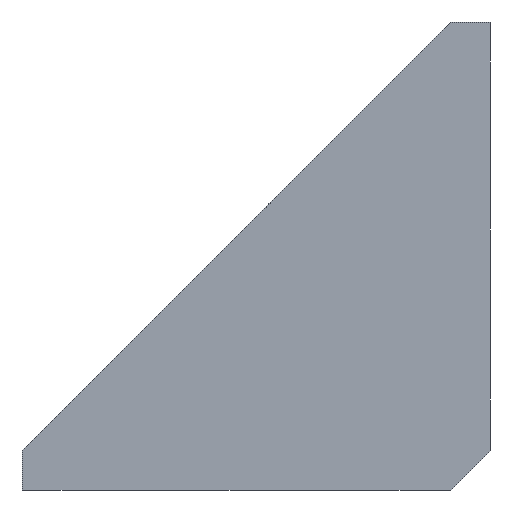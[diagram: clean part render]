
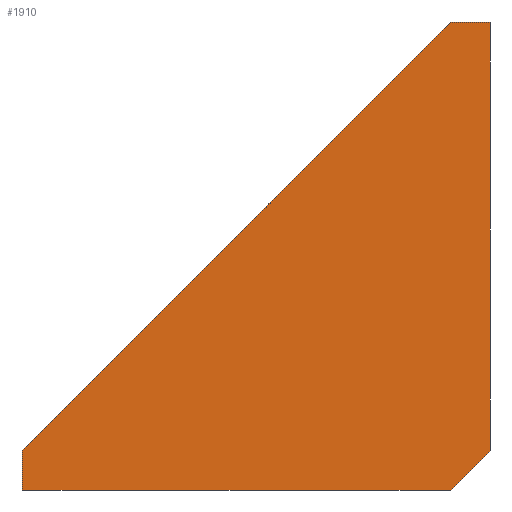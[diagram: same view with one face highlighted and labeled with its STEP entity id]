
A CAD part, left-side view. The second image highlights one B-rep face of the part: STEP entity #1910.
In plain terms, the highlighted planar face has unit normal (-1, 0, 0).
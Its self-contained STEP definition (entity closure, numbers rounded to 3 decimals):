
#72 = DIRECTION ( 'NONE',  ( 0., 0., -1. ) ) ;
#73 = DIRECTION ( 'NONE',  ( 1., 0., 0. ) ) ;
#75 = PLANE ( 'NONE',  #263 ) ;
#86 = CARTESIAN_POINT ( 'NONE',  ( -25., 0., 180. ) ) ;
#105 = CARTESIAN_POINT ( 'NONE',  ( -25., 15., 0. ) ) ;
#117 = CARTESIAN_POINT ( 'NONE',  ( -25., 0., 180. ) ) ;
#127 = CARTESIAN_POINT ( 'NONE',  ( -25., 180., 15. ) ) ;
#136 = CARTESIAN_POINT ( 'NONE',  ( -25., 0., 15. ) ) ;
#144 = CARTESIAN_POINT ( 'NONE',  ( -25., 180., 0. ) ) ;
#210 = CARTESIAN_POINT ( 'NONE',  ( -25., 15., 180. ) ) ;
#263 = AXIS2_PLACEMENT_3D ( 'NONE', #86, #73, #72 ) ;
#265 = EDGE_CURVE ( 'NONE', #1602, #1587, #1052, .T. ) ;
#341 = EDGE_CURVE ( 'NONE', #1535, #1602, #933, .T. ) ;
#355 = EDGE_CURVE ( 'NONE', #1593, #1535, #904, .T. ) ;
#363 = EDGE_CURVE ( 'NONE', #1581, #1593, #902, .T. ) ;
#372 = EDGE_CURVE ( 'NONE', #1611, #1581, #886, .T. ) ;
#377 = EDGE_CURVE ( 'NONE', #1587, #1611, #858, .T. ) ;
#490 = CARTESIAN_POINT ( 'NONE',  ( -25., 180., 15. ) ) ;
#495 = DIRECTION ( 'NONE',  ( 0., -1., 0. ) ) ;
#520 = CARTESIAN_POINT ( 'NONE',  ( -25., 15., 180. ) ) ;
#555 = DIRECTION ( 'NONE',  ( 0., 0.707, -0.707 ) ) ;
#556 = CARTESIAN_POINT ( 'NONE',  ( -25., 0., 15. ) ) ;
#568 = DIRECTION ( 'NONE',  ( 0., 1., 0. ) ) ;
#594 = DIRECTION ( 'NONE',  ( 0., 0., 1. ) ) ;
#615 = DIRECTION ( 'NONE',  ( 0., -0.707, 0.707 ) ) ;
#616 = CARTESIAN_POINT ( 'NONE',  ( -25., 15., 0. ) ) ;
#620 = CARTESIAN_POINT ( 'NONE',  ( -25., 180., 0. ) ) ;
#725 = FACE_OUTER_BOUND ( 'NONE', #1489, .T. ) ;
#855 = VECTOR ( 'NONE', #555, 1000. ) ;
#858 = LINE ( 'NONE', #556, #855 ) ;
#865 = VECTOR ( 'NONE', #568, 1000. ) ;
#883 = VECTOR ( 'NONE', #594, 1000. ) ;
#886 = LINE ( 'NONE', #616, #865 ) ;
#899 = VECTOR ( 'NONE', #615, 1000. ) ;
#902 = LINE ( 'NONE', #620, #883 ) ;
#904 = LINE ( 'NONE', #490, #899 ) ;
#927 = VECTOR ( 'NONE', #495, 1000. ) ;
#933 = LINE ( 'NONE', #520, #927 ) ;
#1045 = VECTOR ( 'NONE', #1898, 1000. ) ;
#1052 = LINE ( 'NONE', #1812, #1045 ) ;
#1489 = EDGE_LOOP ( 'NONE', ( #1620, #1622, #1691, #1693, #1694, #1715 ) ) ;
#1535 = VERTEX_POINT ( 'NONE', #210 ) ;
#1581 = VERTEX_POINT ( 'NONE', #144 ) ;
#1587 = VERTEX_POINT ( 'NONE', #136 ) ;
#1593 = VERTEX_POINT ( 'NONE', #127 ) ;
#1602 = VERTEX_POINT ( 'NONE', #117 ) ;
#1611 = VERTEX_POINT ( 'NONE', #105 ) ;
#1620 = ORIENTED_EDGE ( 'NONE', *, *, #341, .F. ) ;
#1622 = ORIENTED_EDGE ( 'NONE', *, *, #355, .F. ) ;
#1691 = ORIENTED_EDGE ( 'NONE', *, *, #363, .F. ) ;
#1693 = ORIENTED_EDGE ( 'NONE', *, *, #372, .F. ) ;
#1694 = ORIENTED_EDGE ( 'NONE', *, *, #377, .F. ) ;
#1715 = ORIENTED_EDGE ( 'NONE', *, *, #265, .F. ) ;
#1812 = CARTESIAN_POINT ( 'NONE',  ( -25., 0., 180. ) ) ;
#1898 = DIRECTION ( 'NONE',  ( 0., 0., -1. ) ) ;
#1910 = ADVANCED_FACE ( 'NONE', ( #725 ), #75, .F. ) ;
